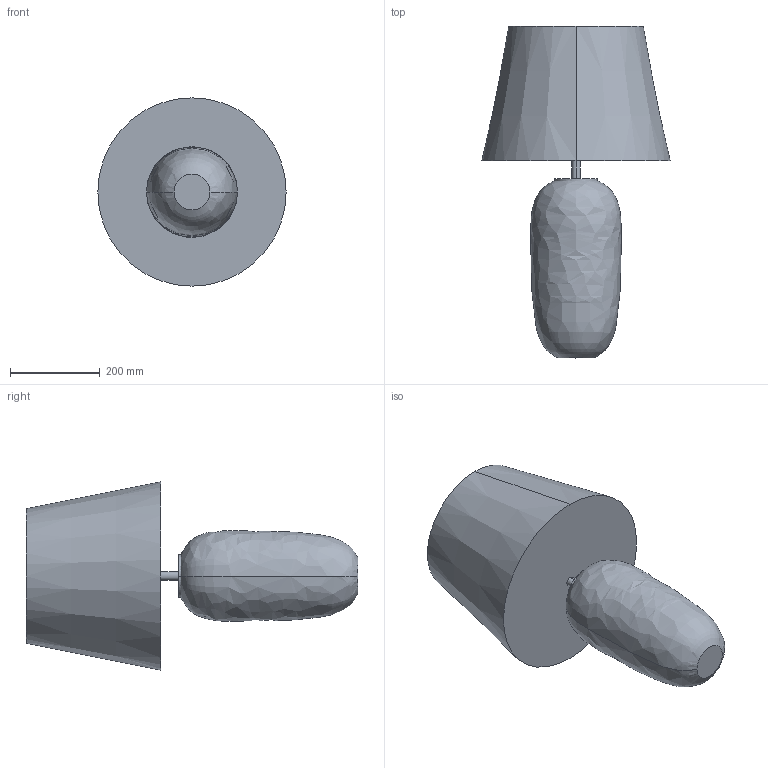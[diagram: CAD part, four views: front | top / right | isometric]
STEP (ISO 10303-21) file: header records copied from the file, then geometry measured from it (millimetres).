
FILE_DESCRIPTION (( 'STEP AP214' ), '1' );
FILE_NAME ('02.STEP', '2016-10-07T08:11:01', ( 'Tripiodiy' ), ( '' ), 'SwSTEP 2.0', 'SolidWorks 2016', '' );
FILE_SCHEMA (( 'AUTOMOTIVE_DESIGN' ));
Length unit declared in the file: millimetre
Products named in the file (1): 02
Bounding box: 420 x 740 x 420 mm (x, y, z)
Volume: 2189490.6 mm3; surface area: 1462329.1 mm2
Topology: 1 solids, 1 shells, 20 faces, 38 edges, 24 vertices
Faces by surface type: cone 6, plane 6, bspline 4, cylinder 4
Entity records: 1586 total; most frequent: CARTESIAN_POINT 1145, DIRECTION 92, ORIENTED_EDGE 76, AXIS2_PLACEMENT_3D 41, EDGE_CURVE 38, CIRCLE 24, VERTEX_POINT 24, EDGE_LOOP 24
